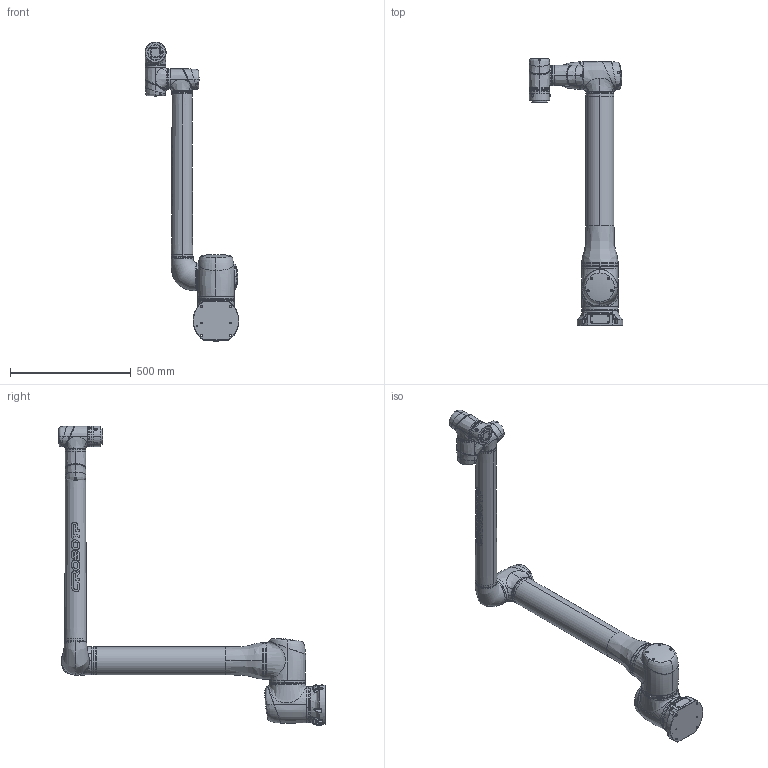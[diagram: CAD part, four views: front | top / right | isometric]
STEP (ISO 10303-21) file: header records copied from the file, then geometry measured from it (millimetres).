
FILE_DESCRIPTION (( 'STEP AP203' ), '1' );
FILE_NAME ('CRP-RC18-05.STEP', '2025-10-16T05:07:09', ( 'Microsoft' ), ( 'Microsoft' ), 'SwSTEP 2.0', 'SolidWorks 2021', '' );
FILE_SCHEMA (( 'CONFIG_CONTROL_DESIGN' ));
Length unit declared in the file: millimetre
Products named in the file (9): CRP-RC18-05-06 湮旋(膝曹) 2025.10.16; CRP-RC13-10-08 勂窒 2023.10.13-1; RC09-05-04 蚚誧蟀諉楊擘; CRP-RC13-10 菁釱郪璃 2022.11.22-1; CRM25耀郪-1; CRM32R耀郪 2024.03.18-1; CRP-RC18-05; CRP-RC18-05-07 苤旋 2025.10.16; 14耀郪
Assembly tree (11 placements, depth 2):
  CRP-RC18-05
    CRP-RC13-10 菁釱郪璃 2022.11.22-1
    CRM32R耀郪 2024.03.18-1  x2
    CRM25耀郪-1
    CRP-RC13-10-08 勂窒 2023.10.13-1
    14耀郪  x3
    RC09-05-04 蚚誧蟀諉楊擘
    CRP-RC18-05-06 湮旋(膝曹) 2025.10.16
    CRP-RC18-05-07 苤旋 2025.10.16
Bounding box: 388.59 x 1104.02 x 1240.63 mm (x, y, z)
Volume: 26502400.8 mm3; surface area: 1529375.1 mm2
Topology: 50 solids, 50 shells, 2790 faces, 6611 edges, 4112 vertices
Faces by surface type: plane 987, cylinder 923, bspline 442, cone 205, torus 183, sphere 50
Entity records: 88881 total; most frequent: CARTESIAN_POINT 46702, ORIENTED_EDGE 8642, DIRECTION 8448, EDGE_CURVE 4321, AXIS2_PLACEMENT_3D 3393, VERTEX_POINT 2736, EDGE_LOOP 2057, CIRCLE 1840
